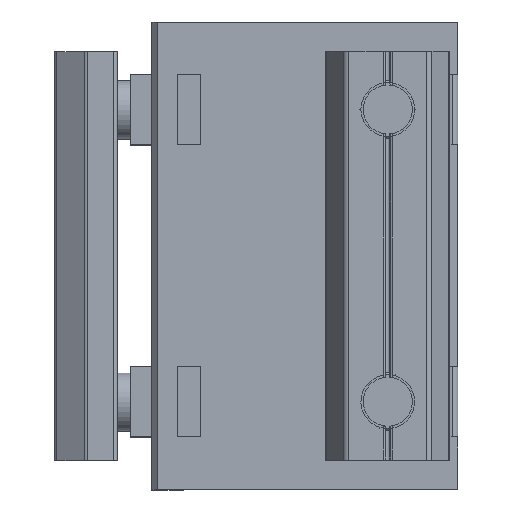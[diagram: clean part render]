
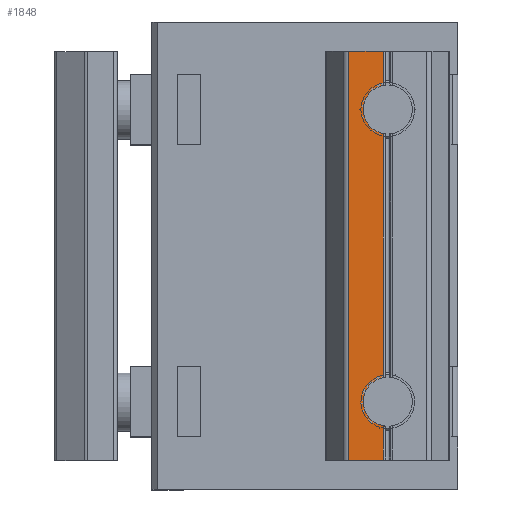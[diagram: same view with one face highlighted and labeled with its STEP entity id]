
A CAD part, top view. The second image highlights one B-rep face of the part: STEP entity #1848.
In plain terms, the highlighted planar face has unit normal (0, 0, 1) as drawn and (0, -1, 0) by its records, which use the part's own axes.
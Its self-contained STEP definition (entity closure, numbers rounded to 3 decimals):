
#89 = CARTESIAN_POINT ( 'NONE',  ( 3.27, 0., 35. ) ) ;
#533 = VECTOR ( 'NONE', #10585, 1000. ) ;
#636 = CARTESIAN_POINT ( 'NONE',  ( 0.279, 0., 0. ) ) ;
#739 = VERTEX_POINT ( 'NONE', #8699 ) ;
#1007 = DIRECTION ( 'NONE',  ( 1., 0., 0. ) ) ;
#1354 = VECTOR ( 'NONE', #1007, 1000. ) ;
#1389 = CARTESIAN_POINT ( 'NONE',  ( 0.279, 0., 35. ) ) ;
#1436 = CIRCLE ( 'NONE', #4504, 2.1 ) ;
#1674 = EDGE_CURVE ( 'NONE', #4325, #5890, #7698, .T. ) ;
#1848 = ADVANCED_FACE ( 'NONE', ( #3714 ), #7257, .F. ) ;
#1986 = LINE ( 'NONE', #6292, #9868 ) ;
#2178 = ORIENTED_EDGE ( 'NONE', *, *, #5414, .T. ) ;
#2195 = DIRECTION ( 'NONE',  ( 0., 0., 1. ) ) ;
#2392 = VERTEX_POINT ( 'NONE', #636 ) ;
#2791 = CARTESIAN_POINT ( 'NONE',  ( 3.27, 0., 7.068 ) ) ;
#2928 = AXIS2_PLACEMENT_3D ( 'NONE', #3049, #9922, #3884 ) ;
#3049 = CARTESIAN_POINT ( 'NONE',  ( 3.635, 0., 5. ) ) ;
#3205 = CARTESIAN_POINT ( 'NONE',  ( 3.27, 0., 27.932 ) ) ;
#3233 = AXIS2_PLACEMENT_3D ( 'NONE', #7311, #4021, #2195 ) ;
#3562 = CARTESIAN_POINT ( 'NONE',  ( 0., 0., 35. ) ) ;
#3669 = EDGE_CURVE ( 'NONE', #7720, #10553, #7702, .T. ) ;
#3713 = ORIENTED_EDGE ( 'NONE', *, *, #5999, .T. ) ;
#3714 = FACE_OUTER_BOUND ( 'NONE', #8397, .T. ) ;
#3748 = ORIENTED_EDGE ( 'NONE', *, *, #6137, .T. ) ;
#3805 = CARTESIAN_POINT ( 'NONE',  ( 0.279, 0., 35. ) ) ;
#3884 = DIRECTION ( 'NONE',  ( 0., 0., 1. ) ) ;
#4021 = DIRECTION ( 'NONE',  ( 0., 1., 0. ) ) ;
#4325 = VERTEX_POINT ( 'NONE', #5912 ) ;
#4433 = ORIENTED_EDGE ( 'NONE', *, *, #5003, .T. ) ;
#4458 = CARTESIAN_POINT ( 'NONE',  ( 3.27, 0., 35. ) ) ;
#4502 = VERTEX_POINT ( 'NONE', #2791 ) ;
#4504 = AXIS2_PLACEMENT_3D ( 'NONE', #8166, #6436, #5582 ) ;
#5003 = EDGE_CURVE ( 'NONE', #739, #10553, #8187, .T. ) ;
#5215 = ORIENTED_EDGE ( 'NONE', *, *, #6779, .T. ) ;
#5414 = EDGE_CURVE ( 'NONE', #5890, #4502, #5673, .T. ) ;
#5582 = DIRECTION ( 'NONE',  ( 0., 0., 1. ) ) ;
#5635 = ORIENTED_EDGE ( 'NONE', *, *, #1674, .T. ) ;
#5673 = CIRCLE ( 'NONE', #2928, 2.1 ) ;
#5890 = VERTEX_POINT ( 'NONE', #6116 ) ;
#5912 = CARTESIAN_POINT ( 'NONE',  ( 3.27, 0., 0. ) ) ;
#5999 = EDGE_CURVE ( 'NONE', #2392, #4325, #1986, .T. ) ;
#6052 = DIRECTION ( 'NONE',  ( 0., 0., 1. ) ) ;
#6116 = CARTESIAN_POINT ( 'NONE',  ( 3.27, 0., 2.932 ) ) ;
#6137 = EDGE_CURVE ( 'NONE', #6224, #739, #1436, .T. ) ;
#6224 = VERTEX_POINT ( 'NONE', #3205 ) ;
#6292 = CARTESIAN_POINT ( 'NONE',  ( 0., 0., 0. ) ) ;
#6436 = DIRECTION ( 'NONE',  ( 0., 1., 0. ) ) ;
#6499 = CARTESIAN_POINT ( 'NONE',  ( 3.27, 0., 35. ) ) ;
#6779 = EDGE_CURVE ( 'NONE', #4502, #6224, #9599, .T. ) ;
#7257 = PLANE ( 'NONE',  #3233 ) ;
#7311 = CARTESIAN_POINT ( 'NONE',  ( 0., 0., 35. ) ) ;
#7358 = VECTOR ( 'NONE', #8224, 1000. ) ;
#7698 = LINE ( 'NONE', #8589, #533 ) ;
#7702 = LINE ( 'NONE', #3562, #1354 ) ;
#7720 = VERTEX_POINT ( 'NONE', #3805 ) ;
#7889 = LINE ( 'NONE', #1389, #8669 ) ;
#8166 = CARTESIAN_POINT ( 'NONE',  ( 3.635, 0., 30. ) ) ;
#8187 = LINE ( 'NONE', #89, #9082 ) ;
#8224 = DIRECTION ( 'NONE',  ( 0., 0., 1. ) ) ;
#8397 = EDGE_LOOP ( 'NONE', ( #5635, #2178, #5215, #3748, #4433, #8943, #10319, #3713 ) ) ;
#8589 = CARTESIAN_POINT ( 'NONE',  ( 3.27, 0., 35. ) ) ;
#8669 = VECTOR ( 'NONE', #9793, 1000. ) ;
#8699 = CARTESIAN_POINT ( 'NONE',  ( 3.27, 0., 32.068 ) ) ;
#8943 = ORIENTED_EDGE ( 'NONE', *, *, #3669, .F. ) ;
#9082 = VECTOR ( 'NONE', #6052, 1000. ) ;
#9599 = LINE ( 'NONE', #6499, #7358 ) ;
#9793 = DIRECTION ( 'NONE',  ( 0., 0., -1. ) ) ;
#9868 = VECTOR ( 'NONE', #10516, 1000. ) ;
#9922 = DIRECTION ( 'NONE',  ( 0., 1., 0. ) ) ;
#10268 = EDGE_CURVE ( 'NONE', #7720, #2392, #7889, .T. ) ;
#10319 = ORIENTED_EDGE ( 'NONE', *, *, #10268, .T. ) ;
#10516 = DIRECTION ( 'NONE',  ( 1., 0., 0. ) ) ;
#10553 = VERTEX_POINT ( 'NONE', #4458 ) ;
#10585 = DIRECTION ( 'NONE',  ( 0., 0., 1. ) ) ;
